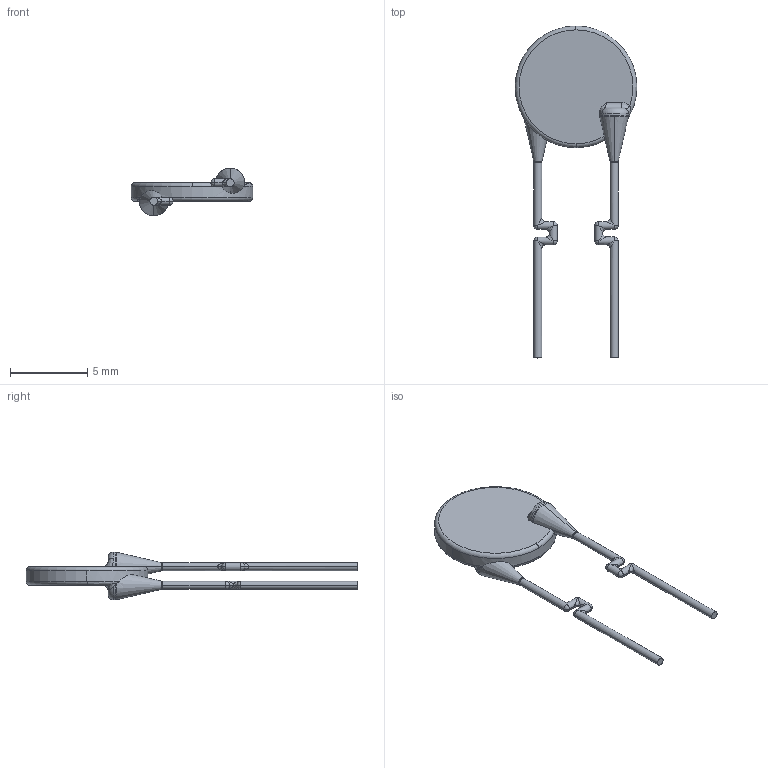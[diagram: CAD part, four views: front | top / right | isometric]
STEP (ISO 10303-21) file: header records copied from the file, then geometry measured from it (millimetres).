
FILE_DESCRIPTION (( 'STEP AP214' ), '1' );
FILE_NAME ('MF-R050.STEP', '2024-06-05T01:15:10', ( '' ), ( '' ), 'SwSTEP 2.0', 'SolidWorks 2023', '' );
FILE_SCHEMA (( 'AUTOMOTIVE_DESIGN' ));
Length unit declared in the file: millimetre
Products named in the file (1): MF-R050
Bounding box: 7.9 x 21.55 x 3.1 mm (x, y, z)
Volume: 70.9 mm3; surface area: 184.7 mm2
Topology: 1 solids, 1 shells, 91 faces, 227 edges, 122 vertices
Faces by surface type: cylinder 25, bspline 22, torus 16, sphere 16, cone 6, plane 6
Entity records: 5878 total; most frequent: CARTESIAN_POINT 2983, ORIENTED_EDGE 422, DIRECTION 403, EDGE_CURVE 211, AXIS2_PLACEMENT_3D 185, VERTEX_POINT 122, CIRCLE 115, EDGE_LOOP 91
